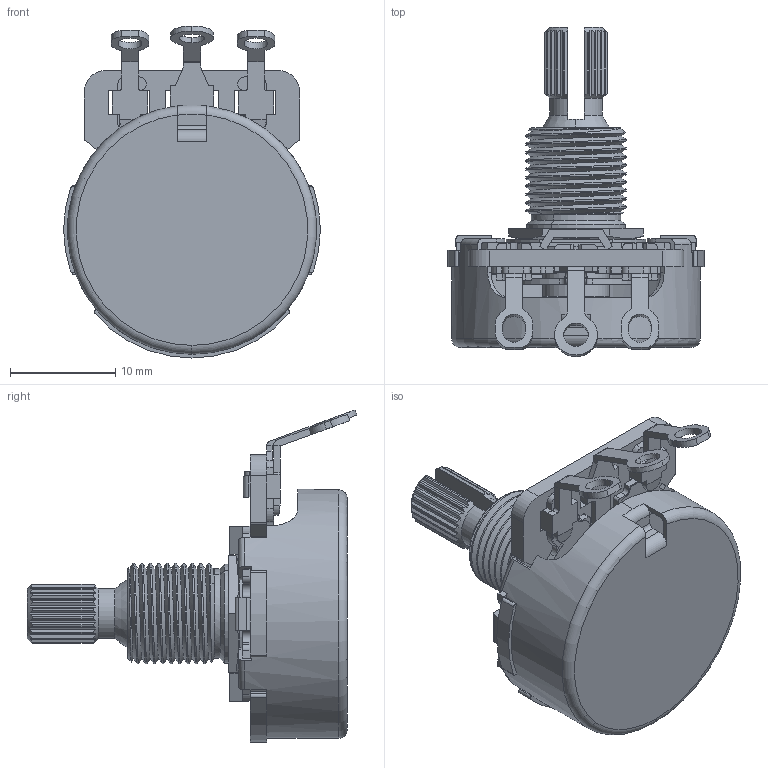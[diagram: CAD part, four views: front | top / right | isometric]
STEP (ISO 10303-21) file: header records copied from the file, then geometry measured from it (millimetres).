
FILE_DESCRIPTION (( 'STEP AP214' ), '1' );
FILE_NAME ('450GT36K504B2S.STEP', '2019-05-27T01:37:13', ( '' ), ( '' ), 'SwSTEP 2.0', 'SolidWorks 2019', '' );
FILE_SCHEMA (( 'AUTOMOTIVE_DESIGN' ));
Length unit declared in the file: millimetre
Products named in the file (10): T450AEDF(For 104G); 450 element; P45Q(stamp for 450GT36K504B2S)_Flat Bottom_45Q54 withFenderTradeMark_NewDetentSetting_07102012; 450B-6; 450D-17 for T450AEDF; 450S-DL-11829-24; 450F-23 for T450AEDF; 450A-104G; 450GT36K504B2S; 45C-2Z-no lug
Assembly tree (10 placements, depth 3):
  450GT36K504B2S
    P45Q(stamp for 450GT36K504B2S)_Flat Bottom_45Q54 withFenderTradeMark_NewDetentSetting_07102012
    T450AEDF(For 104G)
      450A-104G
      450D-17 for T450AEDF
      450 element
      450F-23 for T450AEDF  x2
    45C-2Z-no lug
    450B-6
    450S-DL-11829-24
Bounding box: 24.33 x 31.26 x 31.47 mm (x, y, z)
Volume: 2686.7 mm3; surface area: 6661.2 mm2
Topology: 9 solids, 9 shells, 739 faces, 2088 edges, 1366 vertices
Faces by surface type: plane 442, cylinder 255, cone 22, torus 18, bspline 2
Entity records: 23899 total; most frequent: CARTESIAN_POINT 6015, ORIENTED_EDGE 3810, DIRECTION 3539, EDGE_CURVE 1905, VERTEX_POINT 1249, AXIS2_PLACEMENT_3D 1202, LINE 1135, VECTOR 1135
